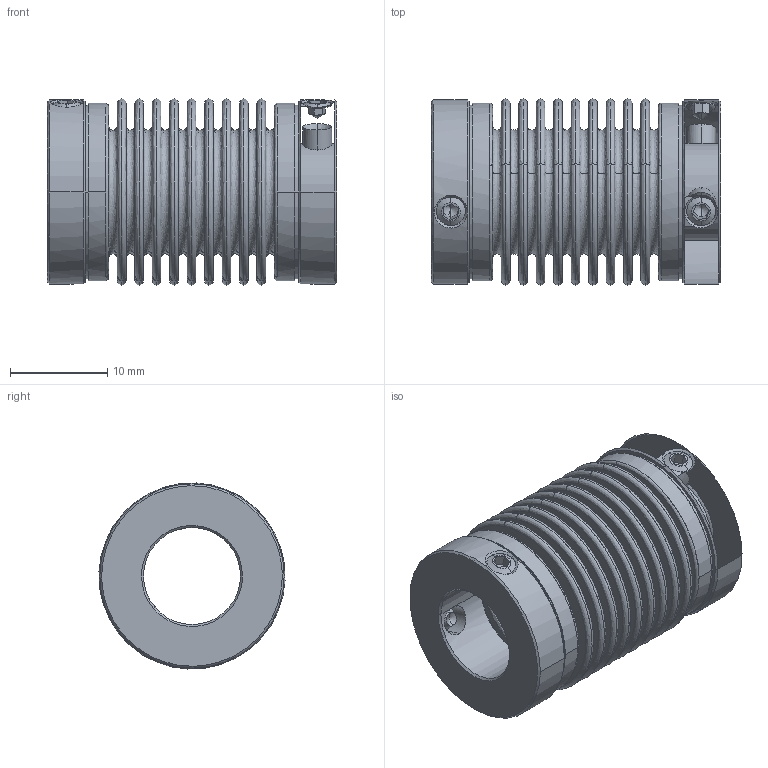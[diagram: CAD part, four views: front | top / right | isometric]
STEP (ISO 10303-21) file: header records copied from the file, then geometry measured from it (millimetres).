
FILE_DESCRIPTION (( 'STEP AP214' ), '1' );
FILE_NAME ('275039_8.0000.1102.1010~1.STEP', '2018-03-01T06:02:50', ( '' ), ( '' ), 'SwSTEP 2.0', 'SolidWorks 2017', '' );
FILE_SCHEMA (( 'AUTOMOTIVE_DESIGN' ));
Length unit declared in the file: millimetre
Products named in the file (1): 275039_8.0000.1102.1010~1
Bounding box: 29.8 x 19.18 x 19.18 mm (x, y, z)
Volume: 2825.5 mm3; surface area: 9123.6 mm2
Topology: 1 solids, 1 shells, 371 faces, 839 edges, 505 vertices
Faces by surface type: bspline 148, plane 101, cylinder 70, cone 52
Entity records: 25616 total; most frequent: CARTESIAN_POINT 14156, ORIENTED_EDGE 1638, DIRECTION 1397, EDGE_CURVE 819, AXIS2_PLACEMENT_3D 608, VERTEX_POINT 503, EDGE_LOOP 426, CIRCLE 384
